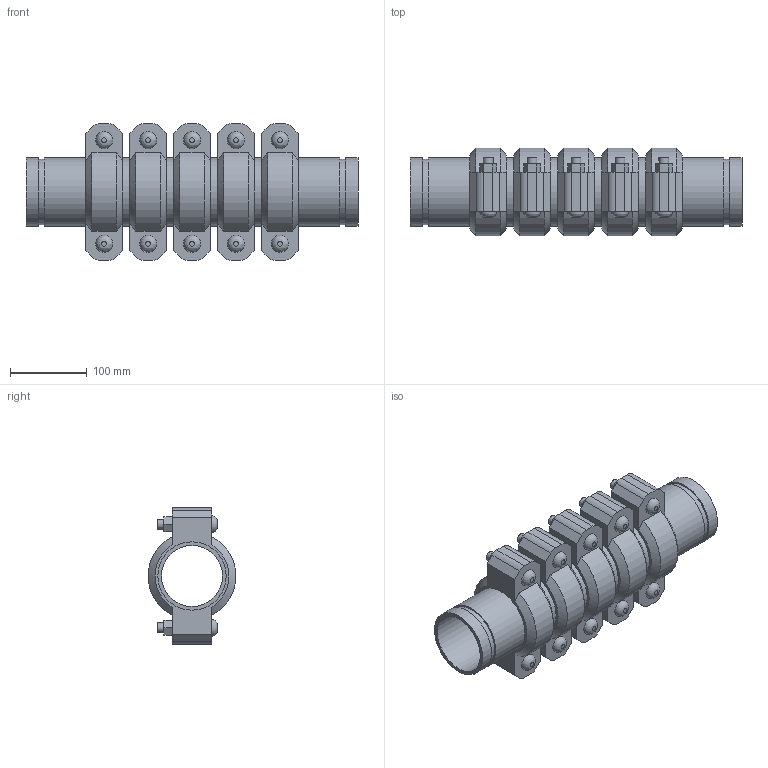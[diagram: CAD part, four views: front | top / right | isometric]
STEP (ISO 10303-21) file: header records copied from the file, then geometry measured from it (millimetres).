
FILE_DESCRIPTION(/* description */ ('VIC SS EXPANSION JOINT 5 COUPLINGS COMPRESSED STYLE 155P (OGS) (POTABLE WATER) ','CAx-IF Rec.Pracs.---Representation and Presentation of Product Manufacturing Information (PMI)---4.0---2014-10-13'),/* implementation_level */ '2;1');
FILE_NAME(/* name */ 'C:\Users\kkamble\AppData\Roaming\Autodesk\ApplicationPlugins\Victaulic.Temp\A410\Victaulic_SS_Expansion Joint_Compressed_5 Couplings_Style 155P (OGS)-Potable Water_5 Coup_Comp_3 (80).stp',/* time_stamp */ '2021-07-16T17:13:21+06:00',/* author */ ('kkamble'),/* organization */ ('Victaulic'),/* preprocessor_version */ 'ST-DEVELOPER v17.2',/* originating_system */ 'Autodesk Inventor 2019',/* authorisation */ '');
FILE_SCHEMA (('AP242_MANAGED_MODEL_BASED_3D_ENGINEERING_MIM_LF { 1 0 10303 442 1 1 4 }'));
Length unit declared in the file: inch
Products named in the file (4): 155P-03.0; Nipple-03.0; Nipple-03.0_1; 075-03.0
Assembly tree (11 placements, depth 2):
  155P-03.0
    Nipple-03.0  x2
    Nipple-03.0_1  x4
    075-03.0  x5
Bounding box: 431.8 x 113.88 x 177.8 mm (x, y, z)
Volume: 2154446.8 mm3; surface area: 551885.9 mm2
Topology: 11 solids, 21 shells, 337 faces, 815 edges, 574 vertices
Faces by surface type: plane 206, cylinder 101, cone 20, bspline 10
Full cylindrical faces by diameter (mm): 12.7 x20, 14.605 x10, 79.35 x6, 84.938 x12, 88.9 x23
Entity records: 2689 total; most frequent: CARTESIAN_POINT 481, DIRECTION 447, ORIENTED_EDGE 374, EDGE_CURVE 187, AXIS2_PLACEMENT_3D 178, VERTEX_POINT 134, EDGE_LOOP 101, LINE 91
